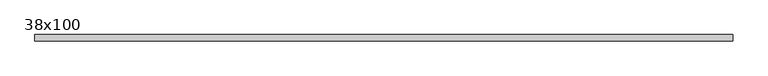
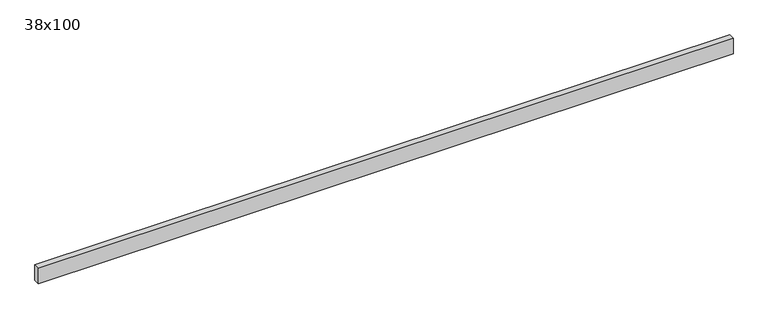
"""IFC4 building model written with IfcOpenShell, lengths in millimetres: beam geometry, Poutre - Bois de construction de dimensions courantes : 38x100."""

from ifc_helpers import new_model, si_unit, frame, origin, place, context, project, spatial, polyline, outline, extrude, source, transform, mapped, element, save


def beam_38x100_5e2662ce(model_context):
    return source(origin(), model_context, "Body", "SweptSolid", [
        extrude(outline(polyline([(2148.0, 19.05), (2148.0, -19.05), (-2148.0, -19.05), (-2148.0, 19.05), (2148.0, 19.05)])), frame((0.0, 0.0, -50.0), z_axis=(0.0, 0.0, 1.0), x_axis=(1.0, 0.0, 0.0)), (0.0, 0.0, 1.0), 100.0),
    ])


if __name__ == "__main__":
    model = new_model("IFC4")
    model_context = context("Model", 3, world=origin())
    ifc_project = project(units=[si_unit("LENGTHUNIT", "METRE", prefix="MILLI")], contexts=[model_context])
    site = spatial("IfcSite", under=ifc_project)
    building = spatial("IfcBuilding", under=site)
    placement = place(None, origin())
    beam_38x100_shape = beam_38x100_5e2662ce(model_context)
    element("IfcBeam", 1, ObjectType="Poutre - Bois de construction de dimensions courantes : 38x100", at=placement, inside=building, context=model_context, shape_type="MappedRepresentation", body=[
        mapped(beam_38x100_shape, transform((0.0, 0.0, 0.0), x_axis=(1.0, 0.0, 0.0), y_axis=(0.0, 1.0, 0.0), z_axis=(0.0, 0.0, 1.0))),
    ])
    save(model, "model.ifc")
